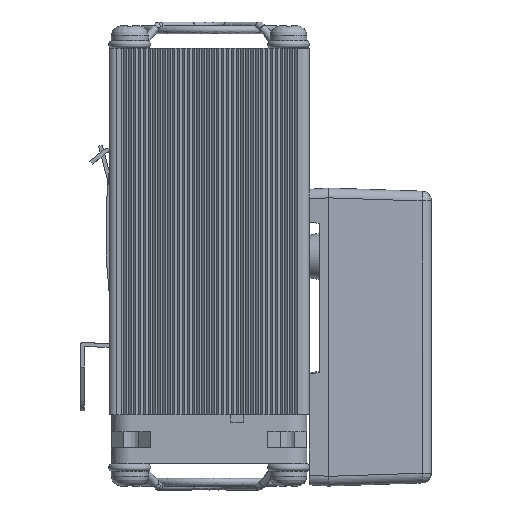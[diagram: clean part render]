
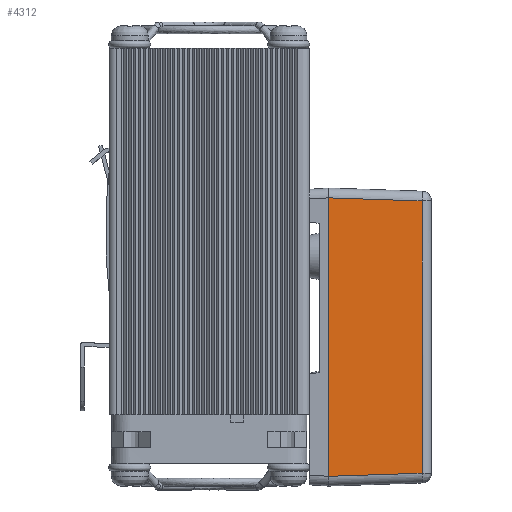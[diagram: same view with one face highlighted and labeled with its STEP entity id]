
A CAD part, left-side view. The second image highlights one B-rep face of the part: STEP entity #4312.
In plain terms, the highlighted planar face has unit normal (-0.999, -0.033, 0).
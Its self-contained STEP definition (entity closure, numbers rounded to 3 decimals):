
#1504=B_SPLINE_CURVE_WITH_KNOTS('',3,(#40363,#40364,#40365,#40366),
 .UNSPECIFIED.,.F.,.F.,(4,4),(-387.102,-330.1),
 .UNSPECIFIED.);
#2457=PLANE('',#19492);
#4312=ADVANCED_FACE('',(#5442),#2457,.T.);
#5442=FACE_OUTER_BOUND('',#6639,.T.);
#6639=EDGE_LOOP('',(#11830,#11831,#11832,#11833));
#11830=ORIENTED_EDGE('',*,*,#14992,.T.);
#11831=ORIENTED_EDGE('',*,*,#14994,.F.);
#11832=ORIENTED_EDGE('',*,*,#14993,.T.);
#11833=ORIENTED_EDGE('',*,*,#14987,.F.);
#14987=EDGE_CURVE('',#18224,#18223,#1504,.T.);
#14992=EDGE_CURVE('',#18224,#18226,#16440,.T.);
#14993=EDGE_CURVE('',#18227,#18223,#16441,.T.);
#14994=EDGE_CURVE('',#18227,#18226,#16442,.T.);
#16440=(
BOUNDED_CURVE()
B_SPLINE_CURVE(3,(#40415,#40416,#40417,#40418),.UNSPECIFIED.,.F.,.F.)
B_SPLINE_CURVE_WITH_KNOTS((4,4),(0.067,19.154),
 .UNSPECIFIED.)
CURVE()
GEOMETRIC_REPRESENTATION_ITEM()
RATIONAL_B_SPLINE_CURVE((1.,1.,1.,1.))
REPRESENTATION_ITEM('')
);
#16441=(
BOUNDED_CURVE()
B_SPLINE_CURVE(3,(#40419,#40420,#40421,#40422),.UNSPECIFIED.,.F.,.F.)
B_SPLINE_CURVE_WITH_KNOTS((4,4),(1.869,20.957),
 .UNSPECIFIED.)
CURVE()
GEOMETRIC_REPRESENTATION_ITEM()
RATIONAL_B_SPLINE_CURVE((1.,1.,1.,1.))
REPRESENTATION_ITEM('')
);
#16442=(
BOUNDED_CURVE()
B_SPLINE_CURVE(3,(#40423,#40424,#40425,#40426),.UNSPECIFIED.,.F.,.F.)
B_SPLINE_CURVE_WITH_KNOTS((4,4),(1.934,57.666),
 .UNSPECIFIED.)
CURVE()
GEOMETRIC_REPRESENTATION_ITEM()
RATIONAL_B_SPLINE_CURVE((1.,1.,1.,1.))
REPRESENTATION_ITEM('')
);
#18223=VERTEX_POINT('',#39860);
#18224=VERTEX_POINT('',#39861);
#18226=VERTEX_POINT('',#39863);
#18227=VERTEX_POINT('',#39864);
#19492=AXIS2_PLACEMENT_3D('',#39383,#20289,$);
#20289=DIRECTION('',(-0.999,-0.033,0.));
#39383=CARTESIAN_POINT('',(67.4,-22.6,-3.595));
#39860=CARTESIAN_POINT('',(66.7,-1.6,55.406));
#39861=CARTESIAN_POINT('',(66.7,-1.6,-1.596));
#39863=CARTESIAN_POINT('',(67.336,-20.667,-0.961));
#39864=CARTESIAN_POINT('',(67.336,-20.667,54.77));
#40363=CARTESIAN_POINT('',(66.7,-1.6,-1.596));
#40364=CARTESIAN_POINT('',(66.7,-1.6,17.404));
#40365=CARTESIAN_POINT('',(66.7,-1.6,36.405));
#40366=CARTESIAN_POINT('',(66.7,-1.6,55.406));
#40415=CARTESIAN_POINT('',(66.7,-1.6,-1.596));
#40416=CARTESIAN_POINT('',(66.912,-7.956,-1.385));
#40417=CARTESIAN_POINT('',(67.124,-14.311,-1.173));
#40418=CARTESIAN_POINT('',(67.336,-20.667,-0.961));
#40419=CARTESIAN_POINT('',(67.336,-20.667,54.77));
#40420=CARTESIAN_POINT('',(67.124,-14.311,54.982));
#40421=CARTESIAN_POINT('',(66.912,-7.956,55.194));
#40422=CARTESIAN_POINT('',(66.7,-1.6,55.406));
#40423=CARTESIAN_POINT('',(67.336,-20.667,54.77));
#40424=CARTESIAN_POINT('',(67.336,-20.667,36.193));
#40425=CARTESIAN_POINT('',(67.336,-20.667,17.616));
#40426=CARTESIAN_POINT('',(67.336,-20.667,-0.961));
